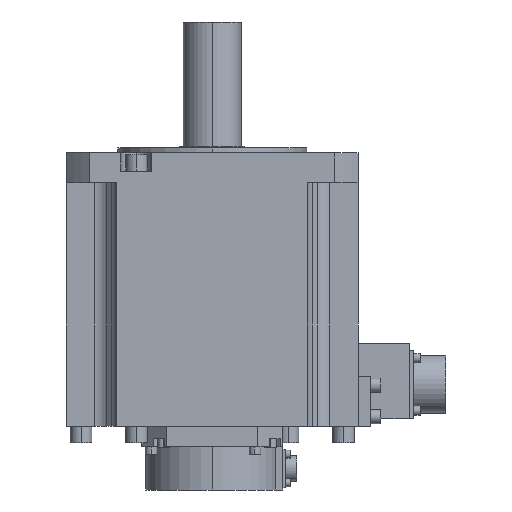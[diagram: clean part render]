
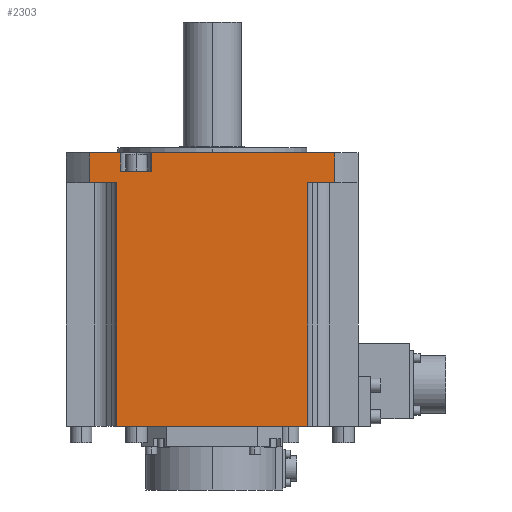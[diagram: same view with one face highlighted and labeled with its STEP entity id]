
A CAD part, left-side view. The second image highlights one B-rep face of the part: STEP entity #2303.
In plain terms, the highlighted planar face has unit normal (-1, 0, 0).
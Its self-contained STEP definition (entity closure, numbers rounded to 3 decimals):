
#450 = DIRECTION ( 'NONE',  ( 0., 1., 0. ) ) ;
#451 = VECTOR ( 'NONE', #450, 1000. ) ;
#452 = CARTESIAN_POINT ( 'NONE',  ( -88., 74.034, 0. ) ) ;
#453 = LINE ( 'NONE', #452, #451 ) ;
#472 = DIRECTION ( 'NONE',  ( 0., 0., 1. ) ) ;
#473 = VECTOR ( 'NONE', #472, 1000. ) ;
#474 = CARTESIAN_POINT ( 'NONE',  ( -88., -74.034, 0. ) ) ;
#475 = LINE ( 'NONE', #474, #473 ) ;
#506 = CARTESIAN_POINT ( 'NONE',  ( -88., -74.034, -18. ) ) ;
#539 = DIRECTION ( 'NONE',  ( 0., 1., 0. ) ) ;
#540 = VECTOR ( 'NONE', #539, 1000. ) ;
#541 = CARTESIAN_POINT ( 'NONE',  ( -88., 74.034, 0. ) ) ;
#542 = LINE ( 'NONE', #541, #540 ) ;
#543 = CARTESIAN_POINT ( 'NONE',  ( -88., -74.034, 0. ) ) ;
#555 = DIRECTION ( 'NONE',  ( 0., -1., 0. ) ) ;
#556 = VECTOR ( 'NONE', #555, 1000. ) ;
#557 = CARTESIAN_POINT ( 'NONE',  ( -88., 74.034, -18. ) ) ;
#558 = LINE ( 'NONE', #557, #556 ) ;
#580 = CARTESIAN_POINT ( 'NONE',  ( -88., -57.5, -18. ) ) ;
#1018 = CARTESIAN_POINT ( 'NONE',  ( -88., 55.2, -11. ) ) ;
#1056 = DIRECTION ( 'NONE',  ( 0., 0., 1. ) ) ;
#1057 = VECTOR ( 'NONE', #1056, 1000. ) ;
#1058 = CARTESIAN_POINT ( 'NONE',  ( -88., 55.2, 0. ) ) ;
#1059 = LINE ( 'NONE', #1058, #1057 ) ;
#1060 = CARTESIAN_POINT ( 'NONE',  ( -88., 55.2, 0. ) ) ;
#1113 = DIRECTION ( 'NONE',  ( 0., -1., 0. ) ) ;
#1114 = VECTOR ( 'NONE', #1113, 1000. ) ;
#1115 = CARTESIAN_POINT ( 'NONE',  ( -88., 74.034, -18. ) ) ;
#1116 = LINE ( 'NONE', #1115, #1114 ) ;
#1133 = CARTESIAN_POINT ( 'NONE',  ( -88., 36.4, 0. ) ) ;
#1154 = DIRECTION ( 'NONE',  ( 0., 0., -1. ) ) ;
#1155 = VECTOR ( 'NONE', #1154, 1000. ) ;
#1156 = CARTESIAN_POINT ( 'NONE',  ( -88., 36.4, 0. ) ) ;
#1157 = LINE ( 'NONE', #1156, #1155 ) ;
#1165 = CARTESIAN_POINT ( 'NONE',  ( -88., 36.4, -11. ) ) ;
#1175 = CARTESIAN_POINT ( 'NONE',  ( -88., 57.5, -18. ) ) ;
#1178 = CARTESIAN_POINT ( 'NONE',  ( -88., 74.034, 0. ) ) ;
#1179 = LINE ( 'NONE', #1178, #1243 ) ;
#1215 = CARTESIAN_POINT ( 'NONE',  ( -88., 74.034, -18. ) ) ;
#1221 = CARTESIAN_POINT ( 'NONE',  ( -88., 74.034, 0. ) ) ;
#1242 = DIRECTION ( 'NONE',  ( 0., 0., -1. ) ) ;
#1243 = VECTOR ( 'NONE', #1242, 1000. ) ;
#1299 = DIRECTION ( 'NONE',  ( 0., 1., 0. ) ) ;
#1300 = VECTOR ( 'NONE', #1299, 1000. ) ;
#1301 = CARTESIAN_POINT ( 'NONE',  ( -88., 74.034, -11. ) ) ;
#1302 = LINE ( 'NONE', #1301, #1300 ) ;
#2229 = ORIENTED_EDGE ( 'NONE', *, *, #2232, .T. ) ;
#2230 = ORIENTED_EDGE ( 'NONE', *, *, #4415, .T. ) ;
#2232 = EDGE_CURVE ( 'NONE', #2238, #2247, #5462, .T. ) ;
#2234 = ORIENTED_EDGE ( 'NONE', *, *, #4446, .T. ) ;
#2235 = ORIENTED_EDGE ( 'NONE', *, *, #5263, .T. ) ;
#2238 = VERTEX_POINT ( 'NONE', #5548 ) ;
#2242 = ORIENTED_EDGE ( 'NONE', *, *, #4382, .T. ) ;
#2243 = EDGE_CURVE ( 'NONE', #5269, #2238, #5554, .T. ) ;
#2247 = VERTEX_POINT ( 'NONE', #5552 ) ;
#2248 = EDGE_LOOP ( 'NONE', ( #2292, #2299, #2301, #2242, #2250, #2235, #2251, #2229, #2249, #2258, #2230, #2234 ) ) ;
#2249 = ORIENTED_EDGE ( 'NONE', *, *, #2254, .T. ) ;
#2250 = ORIENTED_EDGE ( 'NONE', *, *, #5306, .T. ) ;
#2251 = ORIENTED_EDGE ( 'NONE', *, *, #2243, .T. ) ;
#2254 = EDGE_CURVE ( 'NONE', #2247, #4463, #5511, .T. ) ;
#2258 = ORIENTED_EDGE ( 'NONE', *, *, #4437, .T. ) ;
#2292 = ORIENTED_EDGE ( 'NONE', *, *, #5276, .T. ) ;
#2299 = ORIENTED_EDGE ( 'NONE', *, *, #5345, .T. ) ;
#2301 = ORIENTED_EDGE ( 'NONE', *, *, #5217, .T. ) ;
#2303 = ADVANCED_FACE ( 'NONE', ( #5603 ), #5632, .T. ) ;
#4382 = EDGE_CURVE ( 'NONE', #5215, #5315, #453, .T. ) ;
#4415 = EDGE_CURVE ( 'NONE', #4432, #4444, #475, .T. ) ;
#4432 = VERTEX_POINT ( 'NONE', #506 ) ;
#4437 = EDGE_CURVE ( 'NONE', #4463, #4432, #558, .T. ) ;
#4444 = VERTEX_POINT ( 'NONE', #543 ) ;
#4446 = EDGE_CURVE ( 'NONE', #4444, #5254, #542, .T. ) ;
#4463 = VERTEX_POINT ( 'NONE', #580 ) ;
#5078 = VECTOR ( 'NONE', #5083, 1000. ) ;
#5083 = DIRECTION ( 'NONE',  ( 0., -1., 0. ) ) ;
#5198 = VERTEX_POINT ( 'NONE', #1018 ) ;
#5215 = VERTEX_POINT ( 'NONE', #1060 ) ;
#5217 = EDGE_CURVE ( 'NONE', #5198, #5215, #1059, .T. ) ;
#5254 = VERTEX_POINT ( 'NONE', #1133 ) ;
#5263 = EDGE_CURVE ( 'NONE', #5318, #5269, #1116, .T. ) ;
#5269 = VERTEX_POINT ( 'NONE', #1175 ) ;
#5274 = VERTEX_POINT ( 'NONE', #1165 ) ;
#5276 = EDGE_CURVE ( 'NONE', #5254, #5274, #1157, .T. ) ;
#5306 = EDGE_CURVE ( 'NONE', #5315, #5318, #1179, .T. ) ;
#5315 = VERTEX_POINT ( 'NONE', #1221 ) ;
#5318 = VERTEX_POINT ( 'NONE', #1215 ) ;
#5345 = EDGE_CURVE ( 'NONE', #5274, #5198, #1302, .T. ) ;
#5456 = CARTESIAN_POINT ( 'NONE',  ( -88., 0., -165. ) ) ;
#5462 = LINE ( 'NONE', #5456, #5078 ) ;
#5497 = DIRECTION ( 'NONE',  ( 0., 0., 1. ) ) ;
#5498 = VECTOR ( 'NONE', #5497, 1000. ) ;
#5499 = CARTESIAN_POINT ( 'NONE',  ( -88., -57.5, -18. ) ) ;
#5511 = LINE ( 'NONE', #5499, #5498 ) ;
#5548 = CARTESIAN_POINT ( 'NONE',  ( -88., 57.5, -165. ) ) ;
#5552 = CARTESIAN_POINT ( 'NONE',  ( -88., -57.5, -165. ) ) ;
#5553 = CARTESIAN_POINT ( 'NONE',  ( -88., 57.5, 0. ) ) ;
#5554 = LINE ( 'NONE', #5553, #5572 ) ;
#5571 = DIRECTION ( 'NONE',  ( 0., 0., -1. ) ) ;
#5572 = VECTOR ( 'NONE', #5571, 1000. ) ;
#5577 = DIRECTION ( 'NONE',  ( 0., 0., 1. ) ) ;
#5603 = FACE_OUTER_BOUND ( 'NONE', #2248, .T. ) ;
#5631 = AXIS2_PLACEMENT_3D ( 'NONE', #5654, #5653, #5577 ) ;
#5632 = PLANE ( 'NONE',  #5631 ) ;
#5653 = DIRECTION ( 'NONE',  ( -1., 0., 0. ) ) ;
#5654 = CARTESIAN_POINT ( 'NONE',  ( -88., 74.034, 0. ) ) ;
